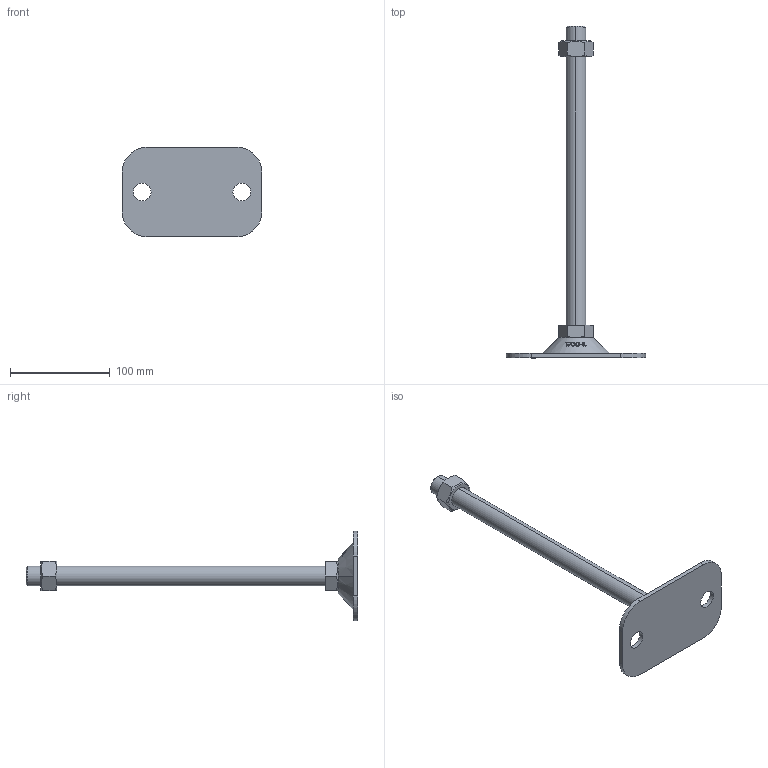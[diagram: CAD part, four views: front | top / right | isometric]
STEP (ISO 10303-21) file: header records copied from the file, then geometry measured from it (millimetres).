
FILE_DESCRIPTION (( 'STEP AP214' ), '1' );
FILE_NAME ('FABL90140-M20-300.step', '2021-03-28T23:53:49', ( '' ), ( '' ), 'SwSTEP 2.0', 'SolidWorks 2019', '' );
FILE_SCHEMA (( 'AUTOMOTIVE_DESIGN' ));
Length unit declared in the file: millimetre
Products named in the file (2): FABL90140-M20-300
Bounding box: 140 x 333 x 90 mm (x, y, z)
Volume: 196923 mm3; surface area: 50371.1 mm2
Topology: 2 solids, 2 shells, 130 faces, 333 edges, 218 vertices
Faces by surface type: plane 50, cylinder 40, cone 22, bspline 18
Entity records: 5583 total; most frequent: CARTESIAN_POINT 2625, ORIENTED_EDGE 666, DIRECTION 485, EDGE_CURVE 333, VERTEX_POINT 218, AXIS2_PLACEMENT_3D 178, EDGE_LOOP 147, B_SPLINE_CURVE_WITH_KNOTS 140
